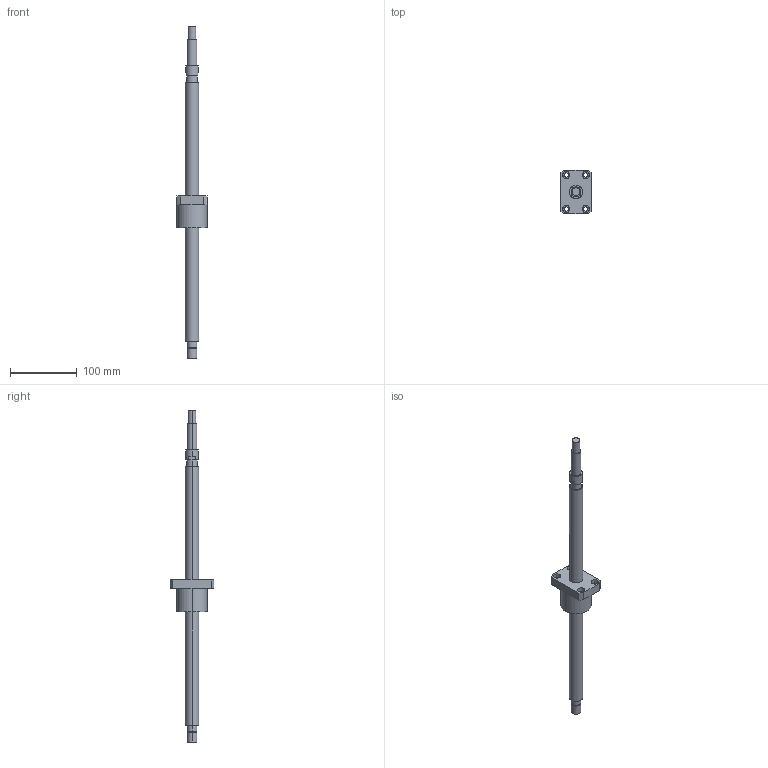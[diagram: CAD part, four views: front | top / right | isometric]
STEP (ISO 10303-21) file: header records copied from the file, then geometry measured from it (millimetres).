
FILE_DESCRIPTION((''),'2;1');
FILE_NAME('R20-10K3-FSC-389-499','2008-04-03T',('wcwu'),(''),'PRO/ENGINEER BY PARAMETRIC TECHNOLOGY CORPORATION, 2005070','PRO/ENGINEER BY PARAMETRIC TECHNOLOGY CORPORATION, 2005070','');
FILE_SCHEMA(('CONFIG_CONTROL_DESIGN'));
Length unit declared in the file: millimetre
Products named in the file (1): R20-10K3-FSC-389-499
Bounding box: 46 x 66 x 499 mm (x, y, z)
Volume: 221063.6 mm3; surface area: 41840.6 mm2
Topology: 1 solids, 1 shells, 65 faces, 146 edges, 96 vertices
Faces by surface type: cylinder 40, plane 25
Entity records: 1906 total; most frequent: DIRECTION 360, CARTESIAN_POINT 307, ORIENTED_EDGE 292, AXIS2_PLACEMENT_3D 149, EDGE_CURVE 146, VERTEX_POINT 96, EDGE_LOOP 86, CIRCLE 84
